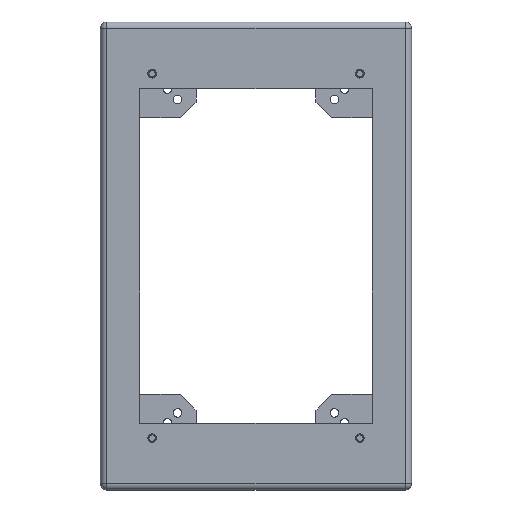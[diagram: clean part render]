
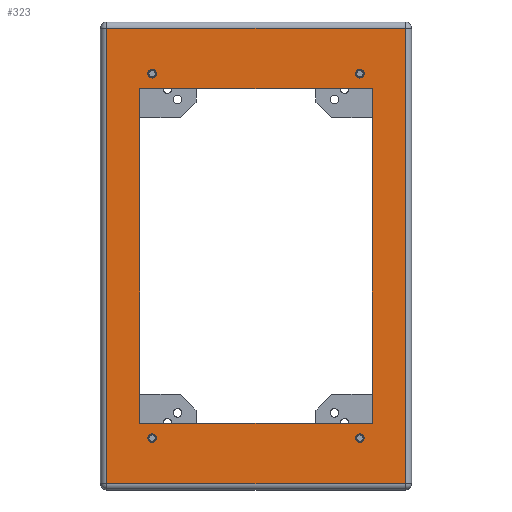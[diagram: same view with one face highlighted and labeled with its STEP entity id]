
A CAD part, top view. The second image highlights one B-rep face of the part: STEP entity #323.
In plain terms, the highlighted planar face has unit normal (0, 0, 1).
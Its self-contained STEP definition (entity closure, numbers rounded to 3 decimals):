
#323=ADVANCED_FACE('',(#1556,#1558,#1560,#1562,#1564,#1566),#1568,.T.);
#1556=FACE_BOUND('',#1557,.T.);
#1557=EDGE_LOOP('',(#2606,#2607,#2608,#2609));
#1558=FACE_BOUND('',#1559,.T.);
#1559=EDGE_LOOP('',(#2610));
#1560=FACE_BOUND('',#1561,.T.);
#1561=EDGE_LOOP('',(#2611));
#1562=FACE_BOUND('',#1563,.T.);
#1563=EDGE_LOOP('',(#2612));
#1564=FACE_BOUND('',#1565,.T.);
#1565=EDGE_LOOP('',(#2613));
#1566=FACE_BOUND('',#1567,.T.);
#1567=EDGE_LOOP('',(#2614,#2615,#2616,#2617));
#1568=PLANE('',#1569);
#1569=AXIS2_PLACEMENT_3D('',#1570,#1571,#1572);
#1570=CARTESIAN_POINT('',(0.,0.,100.));
#1571=DIRECTION('',(0.,0.,1.));
#1572=DIRECTION('',(0.,1.,0.));
#2606=ORIENTED_EDGE('',*,*,#3129,.T.);
#2607=ORIENTED_EDGE('',*,*,#3130,.T.);
#2608=ORIENTED_EDGE('',*,*,#3131,.T.);
#2609=ORIENTED_EDGE('',*,*,#3132,.T.);
#2610=ORIENTED_EDGE('',*,*,#3133,.T.);
#2611=ORIENTED_EDGE('',*,*,#3134,.T.);
#2612=ORIENTED_EDGE('',*,*,#3135,.T.);
#2613=ORIENTED_EDGE('',*,*,#3136,.T.);
#2614=ORIENTED_EDGE('',*,*,#3085,.T.);
#2615=ORIENTED_EDGE('',*,*,#3092,.T.);
#2616=ORIENTED_EDGE('',*,*,#3090,.T.);
#2617=ORIENTED_EDGE('',*,*,#3088,.T.);
#3085=EDGE_CURVE('',#3404,#3405,#3406,.F.);
#3088=EDGE_CURVE('',#3409,#3404,#3410,.F.);
#3090=EDGE_CURVE('',#3412,#3409,#3413,.F.);
#3092=EDGE_CURVE('',#3405,#3412,#3415,.F.);
#3129=EDGE_CURVE('',#3480,#3481,#3482,.T.);
#3130=EDGE_CURVE('',#3481,#3483,#3484,.T.);
#3131=EDGE_CURVE('',#3483,#3485,#3486,.T.);
#3132=EDGE_CURVE('',#3485,#3480,#3487,.T.);
#3133=EDGE_CURVE('',#3488,#3488,#3489,.F.);
#3134=EDGE_CURVE('',#3490,#3490,#3491,.F.);
#3135=EDGE_CURVE('',#3492,#3492,#3493,.F.);
#3136=EDGE_CURVE('',#3494,#3494,#3495,.F.);
#3404=VERTEX_POINT('',#4444);
#3405=VERTEX_POINT('',#4445);
#3406=LINE('',#4446,#4447);
#3409=VERTEX_POINT('',#4455);
#3410=LINE('',#4456,#4457);
#3412=VERTEX_POINT('',#4462);
#3413=LINE('',#4463,#4464);
#3415=LINE('',#4469,#4470);
#3480=VERTEX_POINT('',#5304);
#3481=VERTEX_POINT('',#5305);
#3482=LINE('',#5306,#5307);
#3483=VERTEX_POINT('',#5309);
#3484=LINE('',#5310,#5311);
#3485=VERTEX_POINT('',#5313);
#3486=LINE('',#5314,#5315);
#3487=LINE('',#5317,#5318);
#3488=VERTEX_POINT('',#5320);
#3489=CIRCLE('',#5321,5.5);
#3490=VERTEX_POINT('',#5325);
#3491=CIRCLE('',#5326,5.5);
#3492=VERTEX_POINT('',#5330);
#3493=CIRCLE('',#5331,5.5);
#3494=VERTEX_POINT('',#5335);
#3495=CIRCLE('',#5336,5.5);
#4444=CARTESIAN_POINT('',(-148.5,213.5,100.));
#4445=CARTESIAN_POINT('',(148.5,213.5,100.));
#4446=CARTESIAN_POINT('',(148.5,213.5,100.));
#4447=VECTOR('',#4448,1.);
#4448=DIRECTION('',(-1.,0.,0.));
#4455=CARTESIAN_POINT('',(-148.5,-213.5,100.));
#4456=CARTESIAN_POINT('',(-148.5,213.5,100.));
#4457=VECTOR('',#4458,1.);
#4458=DIRECTION('',(0.,-1.,0.));
#4462=CARTESIAN_POINT('',(148.5,-213.5,100.));
#4463=CARTESIAN_POINT('',(-148.5,-213.5,100.));
#4464=VECTOR('',#4465,1.);
#4465=DIRECTION('',(1.,0.,0.));
#4469=CARTESIAN_POINT('',(148.5,-213.5,100.));
#4470=VECTOR('',#4471,1.);
#4471=DIRECTION('',(0.,1.,0.));
#5304=CARTESIAN_POINT('',(-190.5,290.5,100.));
#5305=CARTESIAN_POINT('',(-190.5,-290.5,100.));
#5306=CARTESIAN_POINT('',(-190.5,290.5,100.));
#5307=VECTOR('',#5308,1.);
#5308=DIRECTION('',(0.,-1.,0.));
#5309=CARTESIAN_POINT('',(190.5,-290.5,100.));
#5310=CARTESIAN_POINT('',(-190.5,-290.5,100.));
#5311=VECTOR('',#5312,1.);
#5312=DIRECTION('',(1.,0.,0.));
#5313=CARTESIAN_POINT('',(190.5,290.5,100.));
#5314=CARTESIAN_POINT('',(190.5,-290.5,100.));
#5315=VECTOR('',#5316,1.);
#5316=DIRECTION('',(0.,1.,0.));
#5317=CARTESIAN_POINT('',(190.5,290.5,100.));
#5318=VECTOR('',#5319,1.);
#5319=DIRECTION('',(-1.,0.,0.));
#5320=CARTESIAN_POINT('',(132.5,238.,100.));
#5321=AXIS2_PLACEMENT_3D('',#5322,#5323,#5324);
#5322=CARTESIAN_POINT('',(132.5,232.5,100.));
#5323=DIRECTION('',(0.,0.,1.));
#5324=DIRECTION('',(0.,1.,0.));
#5325=CARTESIAN_POINT('',(132.5,-227.,100.));
#5326=AXIS2_PLACEMENT_3D('',#5327,#5328,#5329);
#5327=CARTESIAN_POINT('',(132.5,-232.5,100.));
#5328=DIRECTION('',(0.,0.,1.));
#5329=DIRECTION('',(0.,1.,0.));
#5330=CARTESIAN_POINT('',(-132.5,238.,100.));
#5331=AXIS2_PLACEMENT_3D('',#5332,#5333,#5334);
#5332=CARTESIAN_POINT('',(-132.5,232.5,100.));
#5333=DIRECTION('',(0.,0.,1.));
#5334=DIRECTION('',(0.,1.,0.));
#5335=CARTESIAN_POINT('',(-132.5,-227.,100.));
#5336=AXIS2_PLACEMENT_3D('',#5337,#5338,#5339);
#5337=CARTESIAN_POINT('',(-132.5,-232.5,100.));
#5338=DIRECTION('',(0.,0.,1.));
#5339=DIRECTION('',(0.,1.,0.));
